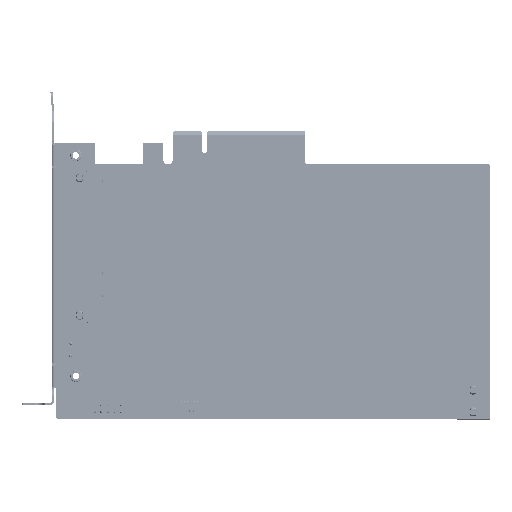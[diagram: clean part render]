
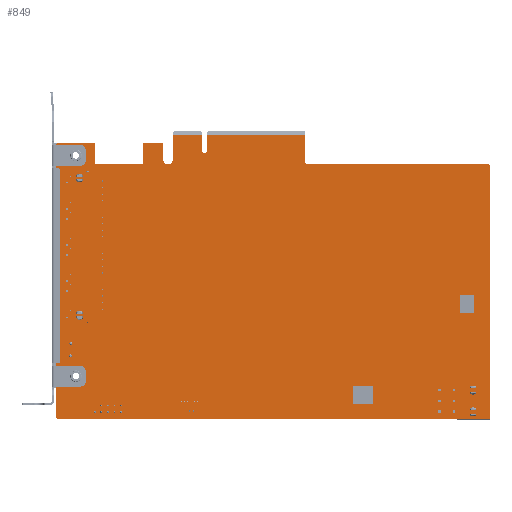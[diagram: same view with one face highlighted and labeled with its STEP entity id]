
A CAD part, left-side view. The second image highlights one B-rep face of the part: STEP entity #849.
In plain terms, the highlighted planar face has unit normal (-1, 0, 0).
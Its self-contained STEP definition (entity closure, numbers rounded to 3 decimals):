
#5=DIRECTION('',(0.,1.,0.));
#6=VECTOR('',#5,7.);
#7=CARTESIAN_POINT('',(0.,42.975,51.08));
#8=LINE('',#7,#6);
#131=CARTESIAN_POINT('',(0.,76.325,46.28));
#132=DIRECTION('',(-1.,0.,0.));
#133=DIRECTION('',(0.,0.,1.));
#134=AXIS2_PLACEMENT_3D('',#131,#132,#133);
#136=CARTESIAN_POINT('',(0.,76.325,46.28));
#137=DIRECTION('',(-1.,0.,0.));
#138=DIRECTION('',(0.,0.,-1.));
#139=AXIS2_PLACEMENT_3D('',#136,#137,#138);
#141=CARTESIAN_POINT('',(0.,-83.325,42.33));
#142=DIRECTION('',(1.,0.,0.));
#143=DIRECTION('',(0.,0.,1.));
#144=AXIS2_PLACEMENT_3D('',#141,#142,#143);
#146=CARTESIAN_POINT('',(0.,-83.325,-55.07));
#147=DIRECTION('',(1.,0.,0.));
#148=DIRECTION('',(0.,-1.,0.));
#149=AXIS2_PLACEMENT_3D('',#146,#147,#148);
#151=CARTESIAN_POINT('',(0.,83.325,-55.07));
#152=DIRECTION('',(1.,0.,0.));
#153=DIRECTION('',(0.,0.,-1.));
#154=AXIS2_PLACEMENT_3D('',#151,#152,#153);
#156=CARTESIAN_POINT('',(0.,83.325,50.58));
#157=DIRECTION('',(1.,0.,0.));
#158=DIRECTION('',(0.,1.,0.));
#159=AXIS2_PLACEMENT_3D('',#156,#157,#158);
#161=CARTESIAN_POINT('',(0.,69.325,50.58));
#162=DIRECTION('',(1.,0.,0.));
#163=DIRECTION('',(0.,0.,1.));
#164=AXIS2_PLACEMENT_3D('',#161,#162,#163);
#166=CARTESIAN_POINT('',(0.,68.325,43.33));
#167=DIRECTION('',(-1.,0.,0.));
#168=DIRECTION('',(0.,1.,0.));
#169=AXIS2_PLACEMENT_3D('',#166,#167,#168);
#171=CARTESIAN_POINT('',(0.,49.975,50.58));
#172=DIRECTION('',(-1.,0.,0.));
#173=DIRECTION('',(0.,0.,1.));
#174=AXIS2_PLACEMENT_3D('',#171,#172,#173);
#176=CARTESIAN_POINT('',(0.,42.975,50.58));
#177=DIRECTION('',(-1.,0.,0.));
#178=DIRECTION('',(0.,-1.,0.));
#179=AXIS2_PLACEMENT_3D('',#176,#177,#178);
#181=DIRECTION('',(0.,0.,1.));
#182=VECTOR('',#181,5.925);
#183=CARTESIAN_POINT('',(0.,42.475,44.655));
#184=LINE('',#183,#182);
#185=CARTESIAN_POINT('',(0.,40.65,44.655));
#186=DIRECTION('',(1.,0.,0.));
#187=DIRECTION('',(0.,-1.,0.));
#188=AXIS2_PLACEMENT_3D('',#185,#186,#187);
#190=DIRECTION('',(0.,-1.,0.));
#191=VECTOR('',#190,11.2);
#192=CARTESIAN_POINT('',(0.,38.825,54.28));
#193=LINE('',#192,#191);
#194=CARTESIAN_POINT('',(0.,26.675,48.13));
#195=DIRECTION('',(-1.,0.,0.));
#196=DIRECTION('',(0.,1.,0.));
#197=AXIS2_PLACEMENT_3D('',#194,#195,#196);
#199=CARTESIAN_POINT('',(0.,76.325,-39.12));
#200=DIRECTION('',(1.,0.,0.));
#201=DIRECTION('',(0.,1.,0.));
#202=AXIS2_PLACEMENT_3D('',#199,#200,#201);
#204=CARTESIAN_POINT('',(0.,76.325,-39.12));
#205=DIRECTION('',(1.,0.,0.));
#206=DIRECTION('',(0.,-1.,0.));
#207=AXIS2_PLACEMENT_3D('',#204,#205,#206);
#217=DIRECTION('',(0.,0.,-1.));
#218=VECTOR('',#217,10.95);
#219=CARTESIAN_POINT('',(0.,-12.475,54.28));
#220=LINE('',#219,#218);
#237=CARTESIAN_POINT('',(0.,-12.975,43.33));
#238=DIRECTION('',(1.,0.,0.));
#239=DIRECTION('',(0.,0.,-1.));
#240=AXIS2_PLACEMENT_3D('',#237,#238,#239);
#255=DIRECTION('',(0.,1.,0.));
#256=VECTOR('',#255,70.35);
#257=CARTESIAN_POINT('',(0.,-83.325,42.83));
#258=LINE('',#257,#256);
#267=DIRECTION('',(0.,0.,1.));
#268=VECTOR('',#267,97.4);
#269=CARTESIAN_POINT('',(0.,-83.825,-55.07));
#270=LINE('',#269,#268);
#279=DIRECTION('',(0.,-1.,0.));
#280=VECTOR('',#279,166.65);
#281=CARTESIAN_POINT('',(0.,83.325,-55.57));
#282=LINE('',#281,#280);
#291=DIRECTION('',(0.,0.,-1.));
#292=VECTOR('',#291,105.65);
#293=CARTESIAN_POINT('',(0.,83.825,50.58));
#294=LINE('',#293,#292);
#303=DIRECTION('',(0.,1.,0.));
#304=VECTOR('',#303,14.);
#305=CARTESIAN_POINT('',(0.,69.325,51.08));
#306=LINE('',#305,#304);
#315=DIRECTION('',(0.,0.,1.));
#316=VECTOR('',#315,7.25);
#317=CARTESIAN_POINT('',(0.,68.825,43.33));
#318=LINE('',#317,#316);
#331=DIRECTION('',(0.,1.,0.));
#332=VECTOR('',#331,17.35);
#333=CARTESIAN_POINT('',(0.,50.975,42.83));
#334=LINE('',#333,#332);
#339=CARTESIAN_POINT('',(0.,50.975,43.33));
#340=DIRECTION('',(1.,0.,0.));
#341=DIRECTION('',(0.,-1.,0.));
#342=AXIS2_PLACEMENT_3D('',#339,#340,#341);
#357=DIRECTION('',(0.,0.,-1.));
#358=VECTOR('',#357,7.25);
#359=CARTESIAN_POINT('',(0.,50.475,50.58));
#360=LINE('',#359,#358);
#361=DIRECTION('',(0.,1.,0.));
#362=VECTOR('',#361,38.2);
#363=CARTESIAN_POINT('',(0.,-12.475,54.28));
#364=LINE('',#363,#362);
#397=DIRECTION('',(0.,0.,-1.));
#398=VECTOR('',#397,6.15);
#399=CARTESIAN_POINT('',(0.,25.725,54.28));
#400=LINE('',#399,#398);
#421=DIRECTION('',(0.,0.,1.));
#422=VECTOR('',#421,6.15);
#423=CARTESIAN_POINT('',(0.,27.625,48.13));
#424=LINE('',#423,#422);
#457=DIRECTION('',(0.,0.,-1.));
#458=VECTOR('',#457,9.625);
#459=CARTESIAN_POINT('',(0.,38.825,54.28));
#460=LINE('',#459,#458);
#501=CARTESIAN_POINT('',(0.,27.625,48.13));
#502=CARTESIAN_POINT('',(0.,27.625,54.28));
#503=VERTEX_POINT('',#501);
#504=VERTEX_POINT('',#502);
#505=CARTESIAN_POINT('',(0.,25.725,48.13));
#506=VERTEX_POINT('',#505);
#507=CARTESIAN_POINT('',(0.,25.725,54.28));
#508=VERTEX_POINT('',#507);
#509=CARTESIAN_POINT('',(0.,-83.325,42.83));
#510=CARTESIAN_POINT('',(0.,-83.825,42.33));
#511=VERTEX_POINT('',#509);
#512=VERTEX_POINT('',#510);
#513=CARTESIAN_POINT('',(0.,-83.825,-55.07));
#514=VERTEX_POINT('',#513);
#515=CARTESIAN_POINT('',(0.,-83.325,-55.57));
#516=VERTEX_POINT('',#515);
#517=CARTESIAN_POINT('',(0.,83.325,-55.57));
#518=VERTEX_POINT('',#517);
#519=CARTESIAN_POINT('',(0.,83.825,-55.07));
#520=VERTEX_POINT('',#519);
#521=CARTESIAN_POINT('',(0.,83.825,50.58));
#522=VERTEX_POINT('',#521);
#523=CARTESIAN_POINT('',(0.,83.325,51.08));
#524=VERTEX_POINT('',#523);
#525=CARTESIAN_POINT('',(0.,69.325,51.08));
#526=VERTEX_POINT('',#525);
#527=CARTESIAN_POINT('',(0.,68.825,50.58));
#528=VERTEX_POINT('',#527);
#529=CARTESIAN_POINT('',(0.,68.825,43.33));
#530=VERTEX_POINT('',#529);
#531=CARTESIAN_POINT('',(0.,68.325,42.83));
#532=VERTEX_POINT('',#531);
#581=CARTESIAN_POINT('',(0.,76.325,48.33));
#582=CARTESIAN_POINT('',(0.,76.325,44.23));
#583=VERTEX_POINT('',#581);
#584=VERTEX_POINT('',#582);
#589=CARTESIAN_POINT('',(0.,78.475,-39.12));
#590=CARTESIAN_POINT('',(0.,74.175,-39.12));
#591=VERTEX_POINT('',#589);
#592=VERTEX_POINT('',#590);
#597=CARTESIAN_POINT('',(0.,49.975,51.08));
#598=CARTESIAN_POINT('',(0.,50.475,50.58));
#599=VERTEX_POINT('',#597);
#600=VERTEX_POINT('',#598);
#605=CARTESIAN_POINT('',(0.,50.475,43.33));
#607=VERTEX_POINT('',#605);
#609=CARTESIAN_POINT('',(0.,50.975,42.83));
#611=VERTEX_POINT('',#609);
#613=CARTESIAN_POINT('',(0.,38.825,44.655));
#614=CARTESIAN_POINT('',(0.,42.475,44.655));
#615=VERTEX_POINT('',#613);
#616=VERTEX_POINT('',#614);
#625=CARTESIAN_POINT('',(0.,42.475,50.58));
#626=VERTEX_POINT('',#625);
#627=CARTESIAN_POINT('',(0.,42.975,51.08));
#628=VERTEX_POINT('',#627);
#629=CARTESIAN_POINT('',(0.,38.825,54.28));
#630=VERTEX_POINT('',#629);
#641=CARTESIAN_POINT('',(0.,-12.475,54.28));
#643=VERTEX_POINT('',#641);
#650=CARTESIAN_POINT('',(0.,-12.975,42.83));
#652=VERTEX_POINT('',#650);
#654=CARTESIAN_POINT('',(0.,-12.475,43.33));
#656=VERTEX_POINT('',#654);
#777=CARTESIAN_POINT('',(0.,0.,0.));
#778=DIRECTION('',(1.,0.,0.));
#779=DIRECTION('',(0.,-1.,0.));
#780=AXIS2_PLACEMENT_3D('',#777,#778,#779);
#781=PLANE('',#780);
#783=ORIENTED_EDGE('',*,*,#782,.T.);
#785=ORIENTED_EDGE('',*,*,#784,.F.);
#787=ORIENTED_EDGE('',*,*,#786,.F.);
#789=ORIENTED_EDGE('',*,*,#788,.T.);
#791=ORIENTED_EDGE('',*,*,#790,.F.);
#793=ORIENTED_EDGE('',*,*,#792,.T.);
#795=ORIENTED_EDGE('',*,*,#794,.F.);
#797=ORIENTED_EDGE('',*,*,#796,.T.);
#799=ORIENTED_EDGE('',*,*,#798,.F.);
#801=ORIENTED_EDGE('',*,*,#800,.T.);
#803=ORIENTED_EDGE('',*,*,#802,.F.);
#805=ORIENTED_EDGE('',*,*,#804,.T.);
#807=ORIENTED_EDGE('',*,*,#806,.F.);
#809=ORIENTED_EDGE('',*,*,#808,.T.);
#811=ORIENTED_EDGE('',*,*,#810,.F.);
#813=ORIENTED_EDGE('',*,*,#812,.F.);
#815=ORIENTED_EDGE('',*,*,#814,.F.);
#817=ORIENTED_EDGE('',*,*,#816,.F.);
#818=ORIENTED_EDGE('',*,*,#664,.F.);
#819=ORIENTED_EDGE('',*,*,#682,.F.);
#821=ORIENTED_EDGE('',*,*,#820,.F.);
#823=ORIENTED_EDGE('',*,*,#822,.F.);
#825=ORIENTED_EDGE('',*,*,#824,.F.);
#827=ORIENTED_EDGE('',*,*,#826,.T.);
#829=ORIENTED_EDGE('',*,*,#828,.F.);
#831=ORIENTED_EDGE('',*,*,#830,.T.);
#833=ORIENTED_EDGE('',*,*,#832,.F.);
#835=ORIENTED_EDGE('',*,*,#834,.F.);
#836=EDGE_LOOP('',(#783,#785,#787,#789,#791,#793,#795,#797,#799,#801,#803,#805,
#807,#809,#811,#813,#815,#817,#818,#819,#821,#823,#825,#827,#829,#831,#833,
#835));
#837=FACE_OUTER_BOUND('',#836,.F.);
#838=ORIENTED_EDGE('',*,*,#767,.T.);
#840=ORIENTED_EDGE('',*,*,#839,.T.);
#841=EDGE_LOOP('',(#838,#840));
#842=FACE_BOUND('',#841,.F.);
#844=ORIENTED_EDGE('',*,*,#843,.F.);
#846=ORIENTED_EDGE('',*,*,#845,.F.);
#847=EDGE_LOOP('',(#844,#846));
#848=FACE_BOUND('',#847,.F.);
#849=ADVANCED_FACE('',(#837,#842,#848),#781,.F.);
#135=CIRCLE('',#134,2.05);
#140=CIRCLE('',#139,2.05);
#145=CIRCLE('',#144,0.5);
#150=CIRCLE('',#149,0.5);
#155=CIRCLE('',#154,0.5);
#160=CIRCLE('',#159,0.5);
#165=CIRCLE('',#164,0.5);
#170=CIRCLE('',#169,0.5);
#175=CIRCLE('',#174,0.5);
#180=CIRCLE('',#179,0.5);
#189=CIRCLE('',#188,1.825);
#198=CIRCLE('',#197,0.95);
#203=CIRCLE('',#202,2.15);
#208=CIRCLE('',#207,2.15);
#241=CIRCLE('',#240,0.5);
#343=CIRCLE('',#342,0.5);
#664=EDGE_CURVE('',#628,#599,#8,.T.);
#682=EDGE_CURVE('',#626,#628,#180,.T.);
#767=EDGE_CURVE('',#583,#584,#135,.T.);
#782=EDGE_CURVE('',#643,#656,#220,.T.);
#784=EDGE_CURVE('',#652,#656,#241,.T.);
#786=EDGE_CURVE('',#511,#652,#258,.T.);
#788=EDGE_CURVE('',#511,#512,#145,.T.);
#790=EDGE_CURVE('',#514,#512,#270,.T.);
#792=EDGE_CURVE('',#514,#516,#150,.T.);
#794=EDGE_CURVE('',#518,#516,#282,.T.);
#796=EDGE_CURVE('',#518,#520,#155,.T.);
#798=EDGE_CURVE('',#522,#520,#294,.T.);
#800=EDGE_CURVE('',#522,#524,#160,.T.);
#802=EDGE_CURVE('',#526,#524,#306,.T.);
#804=EDGE_CURVE('',#526,#528,#165,.T.);
#806=EDGE_CURVE('',#530,#528,#318,.T.);
#808=EDGE_CURVE('',#530,#532,#170,.T.);
#810=EDGE_CURVE('',#611,#532,#334,.T.);
#812=EDGE_CURVE('',#607,#611,#343,.T.);
#814=EDGE_CURVE('',#600,#607,#360,.T.);
#816=EDGE_CURVE('',#599,#600,#175,.T.);
#820=EDGE_CURVE('',#616,#626,#184,.T.);
#822=EDGE_CURVE('',#615,#616,#189,.T.);
#824=EDGE_CURVE('',#630,#615,#460,.T.);
#826=EDGE_CURVE('',#630,#504,#193,.T.);
#828=EDGE_CURVE('',#503,#504,#424,.T.);
#830=EDGE_CURVE('',#503,#506,#198,.T.);
#832=EDGE_CURVE('',#508,#506,#400,.T.);
#834=EDGE_CURVE('',#643,#508,#364,.T.);
#839=EDGE_CURVE('',#584,#583,#140,.T.);
#843=EDGE_CURVE('',#591,#592,#203,.T.);
#845=EDGE_CURVE('',#592,#591,#208,.T.);
